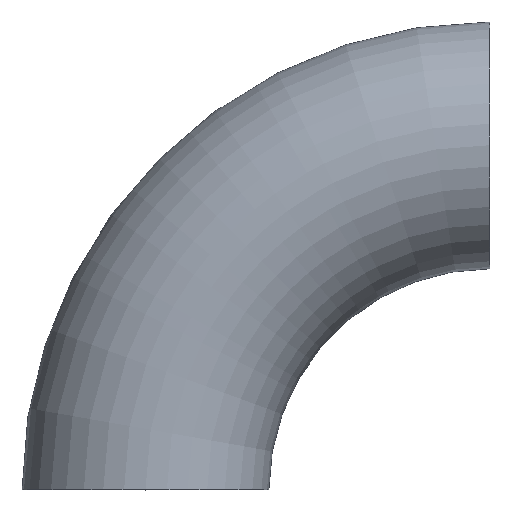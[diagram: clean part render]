
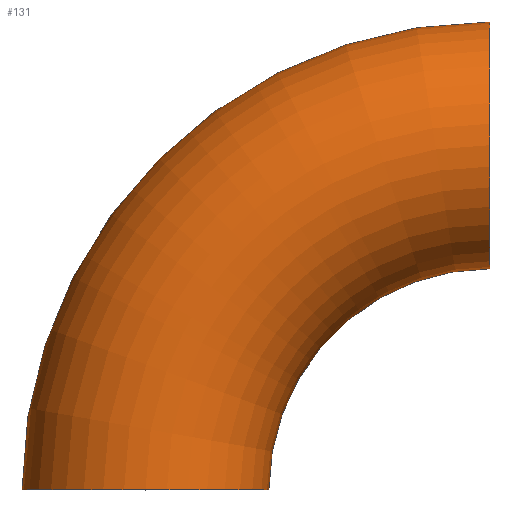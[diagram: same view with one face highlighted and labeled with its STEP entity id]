
A CAD part, top view. The second image highlights one B-rep face of the part: STEP entity #131.
In plain terms, the highlighted toroidal (fillet/blend) face has major radius 381 mm and minor radius 136.5 mm.
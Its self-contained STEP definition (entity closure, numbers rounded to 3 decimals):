
#4 = CIRCLE ( 'NONE', #32, 136.5 ) ;
#11 = CARTESIAN_POINT ( 'NONE',  ( 381., 0., 0. ) ) ;
#14 = DIRECTION ( 'NONE',  ( 1., 0., 0. ) ) ;
#15 = AXIS2_PLACEMENT_3D ( 'NONE', #210, #100, #22 ) ;
#22 = DIRECTION ( 'NONE',  ( 1., 0., 0. ) ) ;
#32 = AXIS2_PLACEMENT_3D ( 'NONE', #165, #155, #152 ) ;
#33 = CARTESIAN_POINT ( 'NONE',  ( 381., 517.5, 0. ) ) ;
#53 = AXIS2_PLACEMENT_3D ( 'NONE', #150, #134, #185 ) ;
#60 = DIRECTION ( 'NONE',  ( 1., 0., 0. ) ) ;
#66 = CARTESIAN_POINT ( 'NONE',  ( -136.5, 0., 0. ) ) ;
#89 = ORIENTED_EDGE ( 'NONE', *, *, #184, .T. ) ;
#98 = EDGE_CURVE ( 'NONE', #164, #202, #120, .T. ) ;
#100 = DIRECTION ( 'NONE',  ( 0., 0., 1. ) ) ;
#110 = ORIENTED_EDGE ( 'NONE', *, *, #181, .F. ) ;
#113 = EDGE_CURVE ( 'NONE', #124, #145, #4, .T. ) ;
#120 = CIRCLE ( 'NONE', #53, 136.5 ) ;
#124 = VERTEX_POINT ( 'NONE', #33 ) ;
#128 = AXIS2_PLACEMENT_3D ( 'NONE', #170, #230, #60 ) ;
#131 = ADVANCED_FACE ( 'NONE', ( #149 ), #237, .T. ) ;
#134 = DIRECTION ( 'NONE',  ( 0., 1., 0. ) ) ;
#145 = VERTEX_POINT ( 'NONE', #211 ) ;
#149 = FACE_OUTER_BOUND ( 'NONE', #180, .T. ) ;
#150 = CARTESIAN_POINT ( 'NONE',  ( 0., 0., 0. ) ) ;
#152 = DIRECTION ( 'NONE',  ( 0., 0., 1. ) ) ;
#155 = DIRECTION ( 'NONE',  ( 1., 0., 0. ) ) ;
#164 = VERTEX_POINT ( 'NONE', #66 ) ;
#165 = CARTESIAN_POINT ( 'NONE',  ( 381., 381., 0. ) ) ;
#170 = CARTESIAN_POINT ( 'NONE',  ( 381., 0., 0. ) ) ;
#174 = CARTESIAN_POINT ( 'NONE',  ( 136.5, 0., 0. ) ) ;
#177 = ORIENTED_EDGE ( 'NONE', *, *, #98, .T. ) ;
#180 = EDGE_LOOP ( 'NONE', ( #244, #89, #177, #110 ) ) ;
#181 = EDGE_CURVE ( 'NONE', #145, #202, #240, .T. ) ;
#184 = EDGE_CURVE ( 'NONE', #124, #164, #248, .T. ) ;
#185 = DIRECTION ( 'NONE',  ( 0., 0., 1. ) ) ;
#202 = VERTEX_POINT ( 'NONE', #174 ) ;
#210 = CARTESIAN_POINT ( 'NONE',  ( 381., 0., 0. ) ) ;
#211 = CARTESIAN_POINT ( 'NONE',  ( 381., 244.5, 0. ) ) ;
#230 = DIRECTION ( 'NONE',  ( 0., 0., 1. ) ) ;
#231 = DIRECTION ( 'NONE',  ( 0., 0., 1. ) ) ;
#232 = AXIS2_PLACEMENT_3D ( 'NONE', #11, #231, #14 ) ;
#237 = TOROIDAL_SURFACE ( 'NONE', #232, 381., 136.5 ) ;
#240 = CIRCLE ( 'NONE', #128, 244.5 ) ;
#244 = ORIENTED_EDGE ( 'NONE', *, *, #113, .F. ) ;
#248 = CIRCLE ( 'NONE', #15, 517.5 ) ;
